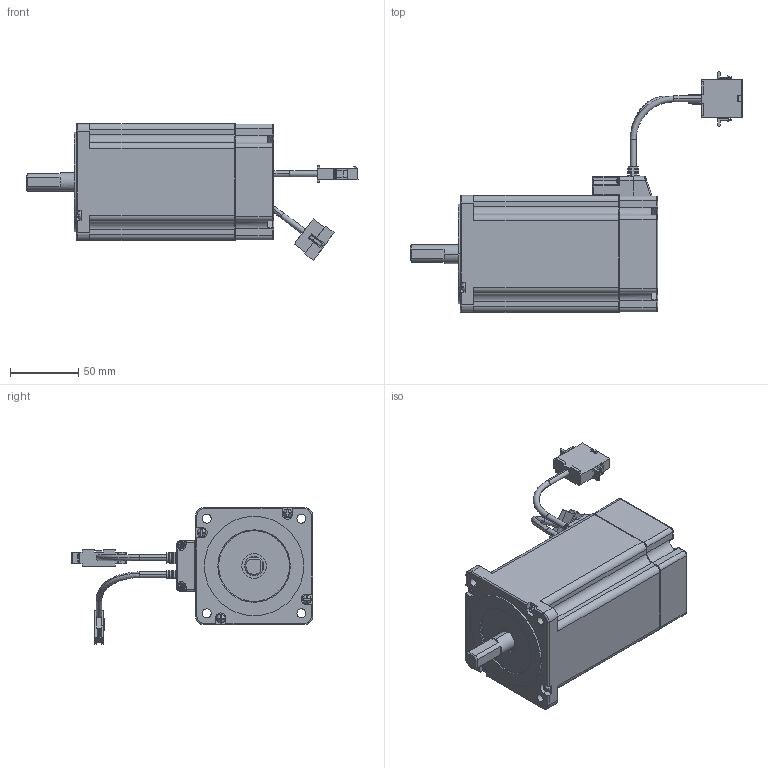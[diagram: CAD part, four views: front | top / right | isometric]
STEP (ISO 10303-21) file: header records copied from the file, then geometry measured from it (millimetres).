
FILE_DESCRIPTION (( 'STEP AP203' ), '1' );
FILE_NAME ('P11-MO-086-02-R00.STEP', '2017-03-03T03:27:39', ( '' ), ( '' ), 'SwSTEP 2.0', 'SolidWorks 2013', '' );
FILE_SCHEMA (( 'CONFIG_CONTROL_DESIGN' ));
Length unit declared in the file: millimetre
Products named in the file (8): pan cross head_ks_KS 1023 PC- M3 x 16-N; pan cross head_ks_KS 1023 PC- M3 x 25-N; P11-MO-086-02-R00; M11-MO-086-02-R00(EzM-86L-01); M11-EC-086-01-R01; M11-EC-086-02-R00; 42阿 浚内歹 纳捞喉急_钎霖; 86陝 賅攪瞪錳摹
Assembly tree (11 placements, depth 2):
  P11-MO-086-02-R00
    M11-MO-086-02-R00(EzM-86L-01)
    M11-EC-086-01-R01
    M11-EC-086-02-R00
    42阿 浚内歹 纳捞喉急_钎霖
    86陝 賅攪瞪錳摹
    pan cross head_ks_KS 1023 PC- M3 x 16-N  x2
    pan cross head_ks_KS 1023 PC- M3 x 25-N  x4
Bounding box: 244 x 177.25 x 100.63 mm (x, y, z)
Volume: 843684.7 mm3; surface area: 107902.1 mm2
Topology: 11 solids, 11 shells, 953 faces, 2476 edges, 1578 vertices
Faces by surface type: plane 526, cylinder 274, cone 57, bspline 40, torus 36, sphere 20
Entity records: 29408 total; most frequent: CARTESIAN_POINT 8201, DIRECTION 4256, ORIENTED_EDGE 4250, EDGE_CURVE 2125, AXIS2_PLACEMENT_3D 1499, VERTEX_POINT 1370, LINE 1258, VECTOR 1258
